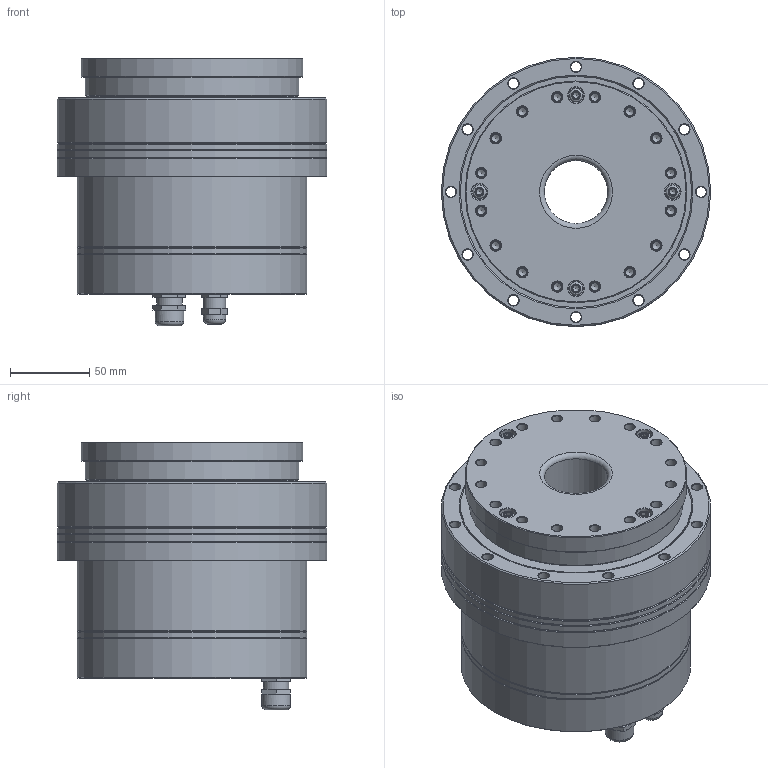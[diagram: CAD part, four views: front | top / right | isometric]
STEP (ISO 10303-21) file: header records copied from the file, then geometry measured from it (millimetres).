
FILE_DESCRIPTION(/* description */ (''),/* implementation_level */ '2;1');
FILE_NAME(/* name */ 'MIS40D-BF-C00.stp',/* time_stamp */ '2025-04-17T15:49:28+08:00',/* author */ (''),/* organization */ (''),/* preprocessor_version */ 'ST-DEVELOPER v16.7',/* originating_system */ 'SIEMENS PLM Software NX 12.0',/* authorisation */ '');
FILE_SCHEMA (('AUTOMOTIVE_DESIGN { 1 0 10303 214 3 1 1 1 }'));
Length unit declared in the file: millimetre
Products named in the file (1): MIS40D-BF-C00
Bounding box: 170 x 170 x 169 mm (x, y, z)
Volume: 1224208.9 mm3; surface area: 509929.1 mm2
Topology: 42 solids, 44 shells, 1950 faces, 4224 edges, 2463 vertices
Faces by surface type: cone 795, plane 652, cylinder 429, torus 74
Full cylindrical faces by diameter (mm): 1.25 x8, 1.6 x4, 2 x2, 2.5 x24, 2.874 x12, 3.3 x30, 3.5 x6, 3.838 x12, 4.2 x8, 4.3 x4, 4.5 x30, 4.826 x4, 5 x22, 5.2 x4, 5.5 x14, 6 x6, 6.5 x12, 6.6 x68, 7 x12, 8 x18, 8.5 x4, 10 x8, 12 x3, 14 x2, 16 x4, 18 x1, 40 x1, 42 x1, 43 x1, 44.8 x1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
Entity records: 47200 total; most frequent: DIRECTION 8491, CARTESIAN_POINT 8258, ORIENTED_EDGE 5848, AXIS2_PLACEMENT_3D 3800, EDGE_LOOP 3383, EDGE_CURVE 2924, FACE_BOUND 2694, VERTEX_POINT 2261
